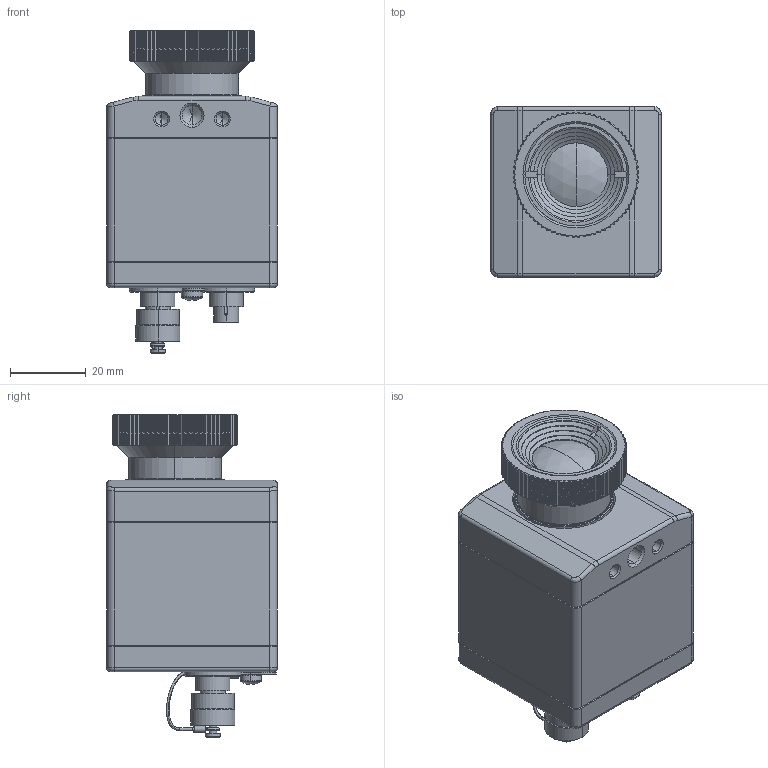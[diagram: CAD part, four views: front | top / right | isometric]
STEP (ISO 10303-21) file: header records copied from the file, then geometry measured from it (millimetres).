
FILE_DESCRIPTION (( 'STEP AP214' ), '1' );
FILE_NAME ('Pi-400i-O80.STEP', '2019-09-30T07:42:41', ( 'admin' ), ( '' ), 'SwSTEP 2.0', 'SolidWorks 2017', '' );
FILE_SCHEMA (( 'AUTOMOTIVE_DESIGN' ));
Length unit declared in the file: millimetre
Products named in the file (29): 52067-25 Schaltlitze 0,14 braun; 52069-0003 Schaltlitze 0,14 gelb; 52066-25 Schaltlitze 0,14 gr黱; 52068-25 Schaltlitze 0,14 weiß; 52065-25 Schaltlitze 0,14 grau; 52061-0003 Schaltlitze 0,14 schwarz; 1P110-2 Objektivhaltering G2; 52060-25 Schaltlitze 0,14 rot; 9P468 Objektivgruppe F56-382p17; 51099 Schutzkappe-712 FS_F〉 Pi; 1R099 Linse2-L5-384-GE; 54250 Temperaturaufkleber; 63019 O-Ring 19 x 1_O-Ring 16 x 1; 61301 Linsenschraube DIN 7985 VZ M3x5_Linsenschraube KS DIN 7985 VZ M3x5; 63023 O-Ring 23x1_O-Ring 23 x 1; 63163 O-Ring NBR 50 x 1,5; 1P468 Schraubring F56-382p17; 51095 Flanschstecker 712; 5-polig; 1P469 Objektivtubus F56-382p17; 51093 Flanschstecker 712; 5-1polig; 1P005 Hülsenmutter; 1P023 Heckplatte-steckbar; 1P102 Vierkantrohr-PI2_1P102-1; 9P425-X Chassis PI-400i; Pi-400i-O80; 62205 Sechskantmutter DIN 439 A2 M2,5_PreviewCfg; 63026 O-Ring 26x1_O-Ring 20 x 1; 1P101 Frontplatte-PI2S; 9P119-X Rückwand PI-2S
Assembly tree (35 placements, depth 3):
  Pi-400i-O80
    9P119-X Rückwand PI-2S
      1P023 Heckplatte-steckbar
      51093 Flanschstecker 712; 5-1polig
      51095 Flanschstecker 712; 5-polig
      63163 O-Ring NBR 50 x 1,5
      61301 Linsenschraube DIN 7985 VZ M3x5_Linsenschraube KS DIN 7985 VZ M3x5
      54250 Temperaturaufkleber
      51099 Schutzkappe-712 FS_F〉 Pi
      52060-25 Schaltlitze 0,14 rot
      52061-0003 Schaltlitze 0,14 schwarz
      52065-25 Schaltlitze 0,14 grau
      52068-25 Schaltlitze 0,14 weiß  x2
      52066-25 Schaltlitze 0,14 gr黱  x2
      52069-0003 Schaltlitze 0,14 gelb
      52067-25 Schaltlitze 0,14 braun
    9P425-X Chassis PI-400i
      1P101 Frontplatte-PI2S
      63026 O-Ring 26x1_O-Ring 20 x 1
      63163 O-Ring NBR 50 x 1,5
      62205 Sechskantmutter DIN 439 A2 M2,5_PreviewCfg  x2
    1P102 Vierkantrohr-PI2_1P102-1
    1P005 Hülsenmutter  x4
    9P468 Objektivgruppe F56-382p17
      1P469 Objektivtubus F56-382p17
      1P468 Schraubring F56-382p17
      63023 O-Ring 23x1_O-Ring 23 x 1
      63019 O-Ring 19 x 1_O-Ring 16 x 1
      1R099 Linse2-L5-384-GE
    1P110-2 Objektivhaltering G2
Bounding box: 45 x 45 x 85.08 mm (x, y, z)
Volume: 42472.2 mm3; surface area: 47028.3 mm2
Topology: 32 solids, 43 shells, 2087 faces, 5316 edges, 3345 vertices
Faces by surface type: cylinder 901, plane 525, cone 435, torus 112, bspline 102, sphere 12
Entity records: 72769 total; most frequent: CARTESIAN_POINT 23945, DIRECTION 9593, ORIENTED_EDGE 9570, EDGE_CURVE 4794, AXIS2_PLACEMENT_3D 3832, VERTEX_POINT 3066, EDGE_LOOP 2029, CIRCLE 2003
